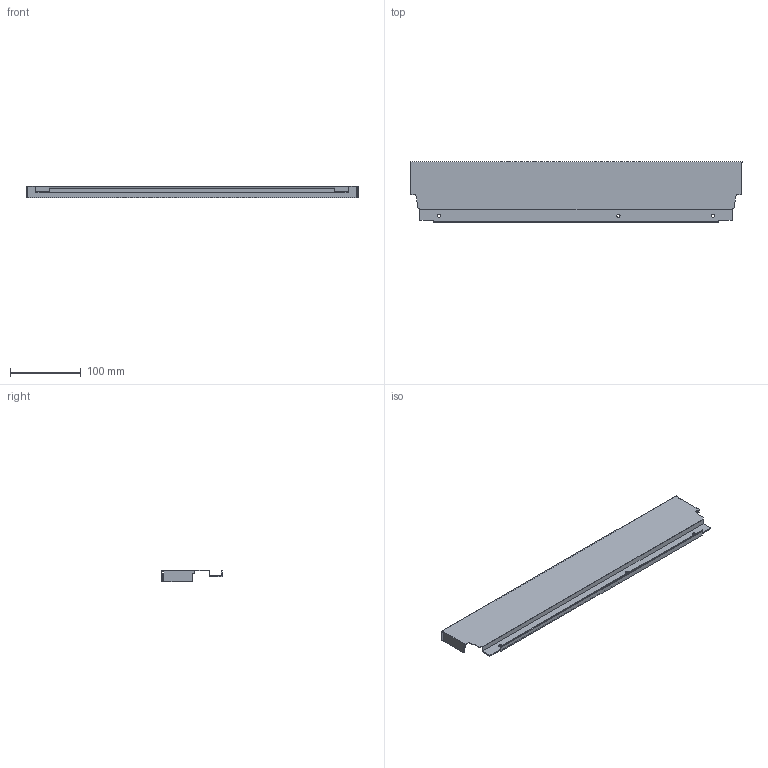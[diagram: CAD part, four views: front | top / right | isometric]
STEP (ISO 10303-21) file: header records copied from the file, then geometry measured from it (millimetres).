
FILE_DESCRIPTION (( 'STEP AP214' ), '1' );
FILE_NAME ('_DWD_XP Stahlrückwand_H86_KAB550_S16.step', '2010-07-08T12:09:55', ( 'grass' ), ( '' ), 'SwSTEP 2.0', 'SolidWorks 2010', '' );
FILE_SCHEMA (( 'AUTOMOTIVE_DESIGN' ));
Length unit declared in the file: millimetre
Products named in the file (1): _DWD_XP Stahlrückwand_H86_KAB550_S16
Bounding box: 469 x 85.79 x 16 mm (x, y, z)
Volume: 49819.8 mm3; surface area: 108754.8 mm2
Topology: 1 solids, 1 shells, 50 faces, 144 edges, 96 vertices
Faces by surface type: plane 44, cylinder 6
Entity records: 1666 total; most frequent: CARTESIAN_POINT 291, ORIENTED_EDGE 288, DIRECTION 258, EDGE_CURVE 144, LINE 132, VECTOR 132, VERTEX_POINT 96, AXIS2_PLACEMENT_3D 63
